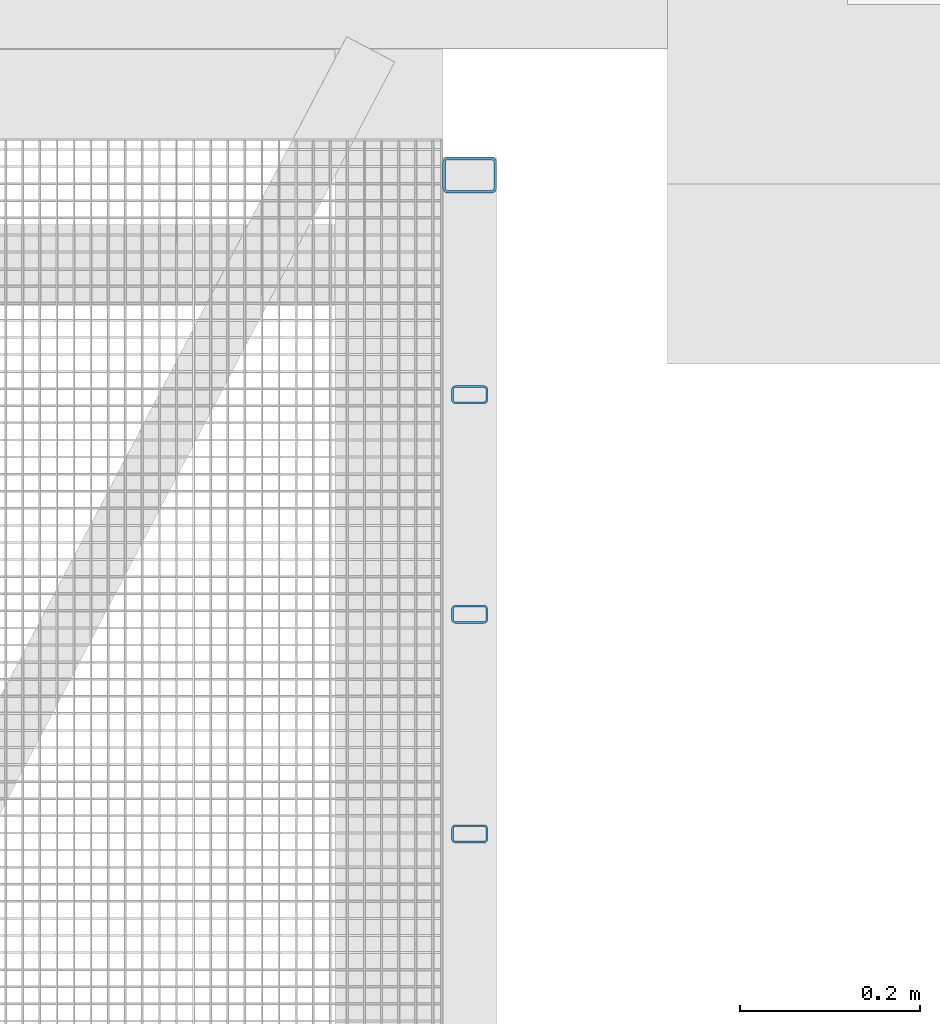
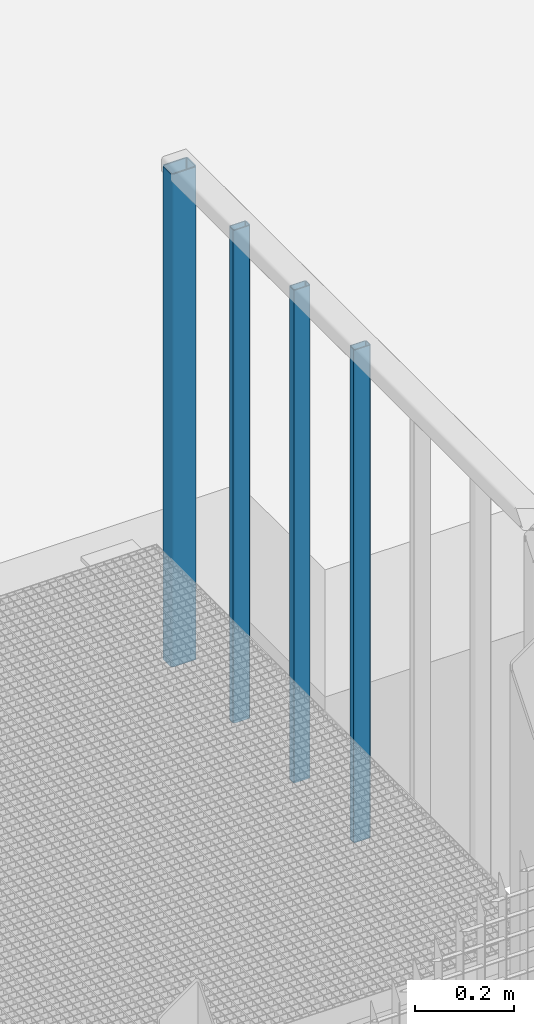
# One storey, part 76 of 1148: 4 columns, 4 elements without a shape of their own.
"""IFC2X3 building model written with IfcOpenShell, lengths in millimetres."""

from ifc_helpers import new_model, si_unit, frame, origin_with_axes, origin_2d_with_axis, place, context, subcontext, project, spatial, hollow_rectangle, extrude, material, type_object, element, aggregate, save


model = new_model("IFC2X3")

# Units and contexts
model_context = context("Model", 3, precision=1e-05, world=origin_with_axes())
body_context = subcontext(model_context, "Body", "Model", "MODEL_VIEW")
ifc_project = project(units=[si_unit("LENGTHUNIT", "METRE", prefix="MILLI"), si_unit("AREAUNIT", "SQUARE_METRE"), si_unit("VOLUMEUNIT", "CUBIC_METRE"), si_unit("MASSUNIT", "GRAM", prefix="KILO"), si_unit("TIMEUNIT", "SECOND"), si_unit("PLANEANGLEUNIT", "RADIAN"), si_unit("SOLIDANGLEUNIT", "STERADIAN"), si_unit("THERMODYNAMICTEMPERATUREUNIT", "DEGREE_CELSIUS"), si_unit("LUMINOUSINTENSITYUNIT", "LUMEN")], contexts=[model_context])

# Site, building, storey
site_placement = place(None, origin_with_axes())
site = spatial("IfcSite", under=ifc_project, at=site_placement, Name="Undefined", CompositionType="ELEMENT")
building_placement = place(site_placement, origin_with_axes())
building = spatial("IfcBuilding", under=site, at=building_placement, Name="Undefined", CompositionType="ELEMENT")
storey_placement = place(building_placement, origin_with_axes())
storey = spatial("IfcBuildingStorey", under=building, at=storey_placement, Name="Undefined", CompositionType="ELEMENT", Elevation=0.0)

# Assembly, column
assembly_1_placement = place(storey_placement, origin_with_axes())
assembly_1 = element("IfcElementAssembly", 1, at=assembly_1_placement, inside=storey, Name="STANCHION", AssemblyPlace="NOTDEFINED", PredefinedType="NOTDEFINED")
ifc_material = material(Name="Undefined/FE510D")
column_type_1 = type_object("IfcColumnType", Name="TUBE-R-40*20*2", PredefinedType="NOTDEFINED")
column_1_placement = place(assembly_1_placement, frame((23180.0649034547, 2415.85979616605, 6220.0), z_axis=(0.0, 0.0, 1.0), x_axis=(0.999999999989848, 4.50600000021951e-06, 0.0)))
column_1 = element("IfcColumn", 2, at=column_1_placement, type_object=column_type_1, material=ifc_material, Name="STANCHION", context=body_context, shape_type="SweptSolid", body=[
    extrude(hollow_rectangle(XDim=20.0, YDim=40.0, WallThickness=2.0, InnerFilletRadius=2.0, OuterFilletRadius=4.0, at=origin_2d_with_axis()), frame((0.0, 0.0, 1219.99999999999), z_axis=(0.0, 0.0, -1.0), x_axis=(0.0, 1.0, 0.0)), (0.0, 0.0, 1.0), 1220.0),
])
aggregate(assembly_1, [column_1])

assembly_2_placement = place(storey_placement, origin_with_axes())
assembly_2 = element("IfcElementAssembly", 3, at=assembly_2_placement, inside=storey, Name="STANCHION", AssemblyPlace="NOTDEFINED", PredefinedType="NOTDEFINED")
column_2_placement = place(assembly_2_placement, frame((23180.0660036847, 2171.68979616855, 6220.0), z_axis=(0.0, 0.0, 1.0), x_axis=(0.999999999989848, 4.50600000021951e-06, 0.0)))
column_2 = element("IfcColumn", 4, at=column_2_placement, type_object=column_type_1, material=ifc_material, Name="STANCHION", context=body_context, shape_type="SweptSolid", body=[
    extrude(hollow_rectangle(XDim=20.0, YDim=40.0, WallThickness=2.0, InnerFilletRadius=2.0, OuterFilletRadius=4.0, at=origin_2d_with_axis()), frame((0.0, 0.0, 1219.99999999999), z_axis=(0.0, 0.0, -1.0), x_axis=(0.0, 1.0, 0.0)), (0.0, 0.0, 1.0), 1220.0),
])
aggregate(assembly_2, [column_2])

assembly_3_placement = place(storey_placement, origin_with_axes())
assembly_3 = element("IfcElementAssembly", 5, at=assembly_3_placement, inside=storey, Name="STANCHION", AssemblyPlace="NOTDEFINED", PredefinedType="NOTDEFINED")
column_3_placement = place(assembly_3_placement, frame((23180.0671039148, 1927.51979617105, 6220.0), z_axis=(0.0, 0.0, 1.0), x_axis=(0.999999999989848, 4.50600000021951e-06, 0.0)))
column_3 = element("IfcColumn", 6, at=column_3_placement, type_object=column_type_1, material=ifc_material, Name="STANCHION", context=body_context, shape_type="SweptSolid", body=[
    extrude(hollow_rectangle(XDim=20.0, YDim=40.0, WallThickness=2.0, InnerFilletRadius=2.0, OuterFilletRadius=4.0, at=origin_2d_with_axis()), frame((0.0, 0.0, 1219.99999999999), z_axis=(0.0, 0.0, -1.0), x_axis=(0.0, 1.0, 0.0)), (0.0, 0.0, 1.0), 1220.0),
])
aggregate(assembly_3, [column_3])

assembly_4_placement = place(storey_placement, origin_with_axes())
assembly_4 = element("IfcElementAssembly", 7, at=assembly_4_placement, inside=storey, Name="STANCHION", AssemblyPlace="NOTDEFINED", PredefinedType="NOTDEFINED")
column_type_2 = type_object("IfcColumnType", Name="TUBE-R-60*40*3", PredefinedType="NOTDEFINED")
column_4_placement = place(assembly_4_placement, frame((23180.0636534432, 2660.00840282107, 6220.0), z_axis=(0.0, 0.0, 1.0), x_axis=(0.999999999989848, 4.50600000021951e-06, 0.0)))
column_4 = element("IfcColumn", 8, at=column_4_placement, type_object=column_type_2, material=ifc_material, Name="STANCHION", context=body_context, shape_type="SweptSolid", body=[
    extrude(hollow_rectangle(XDim=40.0, YDim=60.0, WallThickness=3.0, InnerFilletRadius=3.0, OuterFilletRadius=6.0, at=origin_2d_with_axis()), frame((0.0, 0.0, 1219.99999999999), z_axis=(0.0, 0.0, -1.0), x_axis=(0.0, 1.0, 0.0)), (0.0, 0.0, 1.0), 1220.0),
])
aggregate(assembly_4, [column_4])

save(model, "model.ifc")
